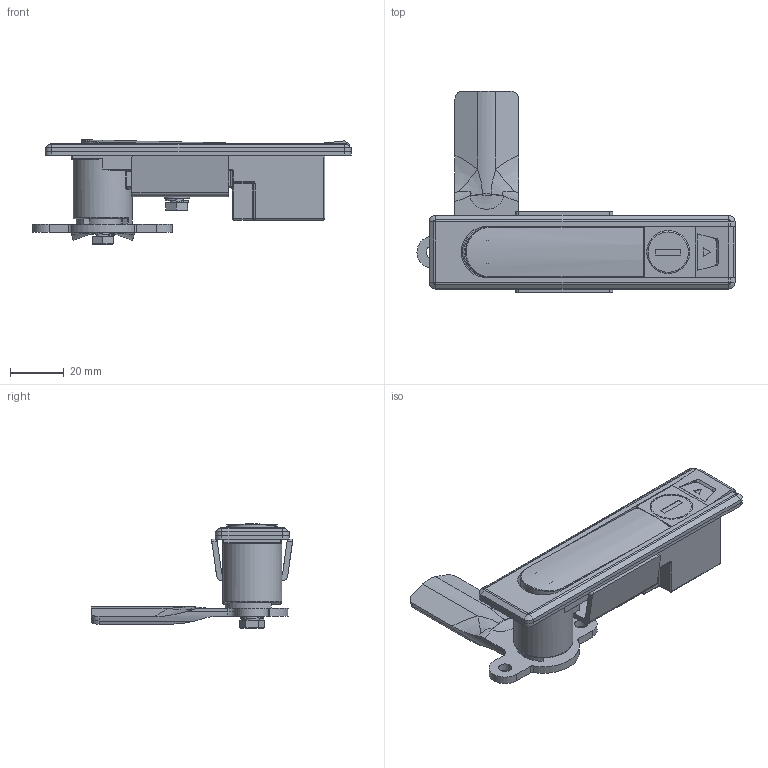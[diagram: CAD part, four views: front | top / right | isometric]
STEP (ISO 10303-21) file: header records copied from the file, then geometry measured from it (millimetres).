
FILE_DESCRIPTION(/* description */ (''),/* implementation_level */ '2;1');
FILE_NAME(/* name */ '\\NAS\db20\MG-305\DR_MG-305.stp',/* time_stamp */ '2017-07-31T14:46:33+09:00',/* author */ ('user'),/* organization */ (''),/* preprocessor_version */ 'ST-DEVELOPER v15.6',/* originating_system */ 'Autodesk Inventor 2015',/* authorisation */ '');
FILE_SCHEMA (('AUTOMOTIVE_DESIGN { 1 0 10303 214 3 1 1 }'));
Length unit declared in the file: millimetre
Products named in the file (8): DR_MG-305; DR_MG-305-H; DR_MG-305-HH; DR_MG-305-P; DR_볼트; DR_핸들브라켓; DR_홀더3
Bounding box: 118.5 x 75.18 x 38.91 mm (x, y, z)
Volume: 45925.2 mm3; surface area: 42094.1 mm2
Topology: 17 solids, 17 shells, 612 faces, 1478 edges, 916 vertices
Faces by surface type: plane 294, cylinder 187, bspline 66, torus 37, sphere 22, cone 6
Full cylindrical faces by diameter (mm): 2.459 x1, 3 x2, 3.5 x2, 4.134 x1, 5 x7, 5.5 x1, 5.558 x2, 7 x1, 8.558 x2, 8.6 x1, 9.5 x2, 12 x3, 15 x1, 16 x3, 18 x1, 19 x1, 22 x1
Entity records: 18059 total; most frequent: CARTESIAN_POINT 4871, ORIENTED_EDGE 2674, DIRECTION 2652, EDGE_CURVE 1337, AXIS2_PLACEMENT_3D 946, VERTEX_POINT 848, LINE 760, VECTOR 760
